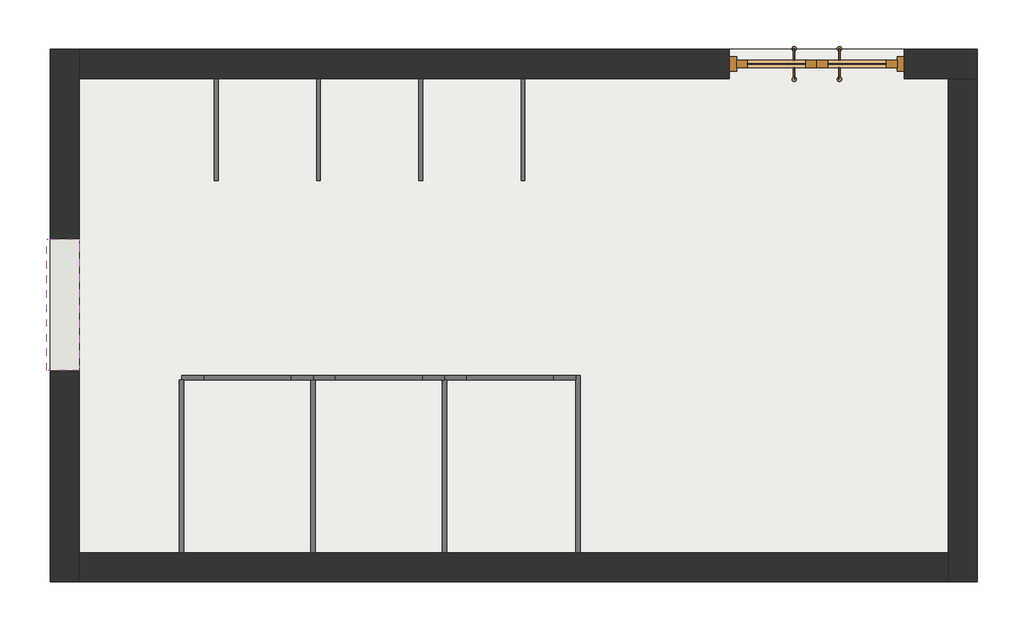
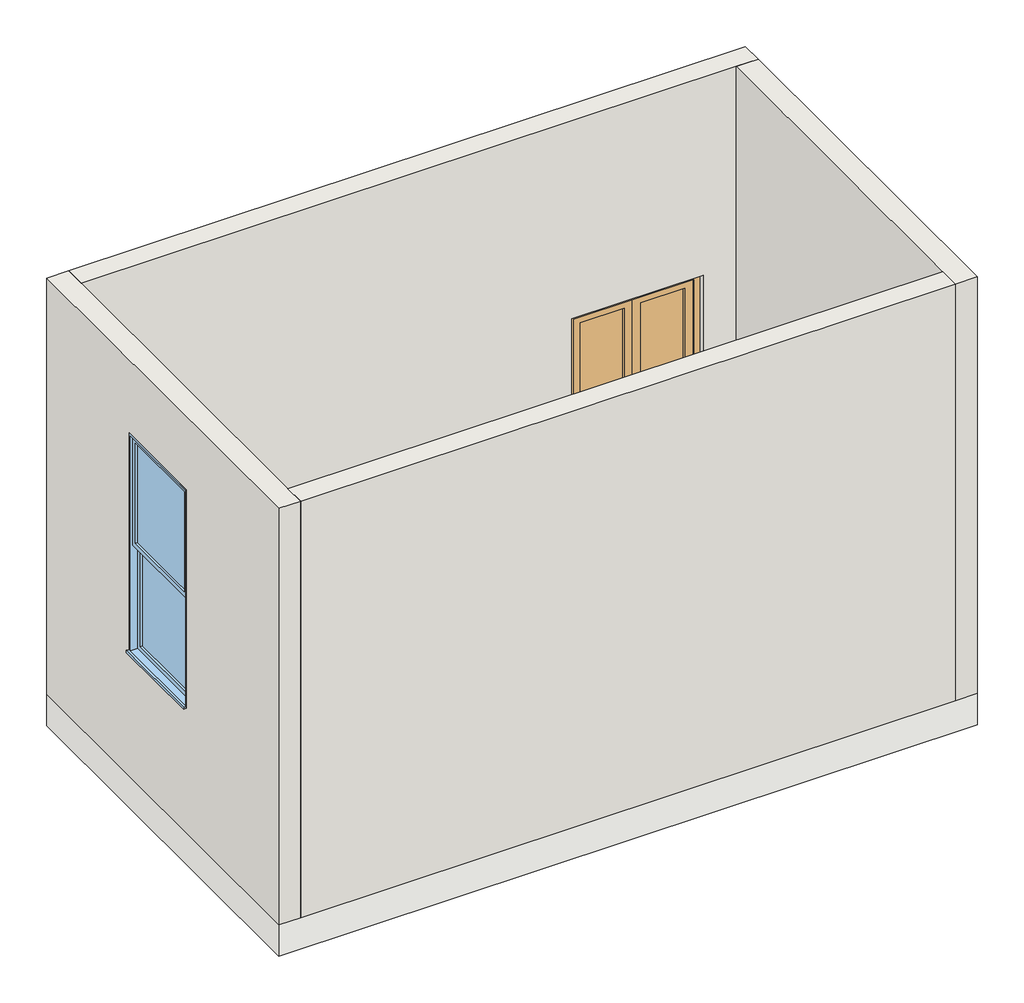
# One storey: 8 proxies, 4 walls, 1 door, 1 slab, 1 window.
"""IFC4 building model written with IfcOpenShell, lengths in millimetres."""

import ifcopenshell
import ifcopenshell.guid

model = None  # the IFC model being written
_history = None  # IfcOwnerHistory: only IFC2X3 demands one
_inside = {}  # id of a spatial element -> (the spatial element, [elements in it])
_under = {}  # id of a project, library or spatial element -> (it, [spatial elements below it])
_declared = {}  # id of a project -> (the project, [libraries it declares])
_typed = {}  # id of a type object -> (the type object, [elements of that type])
_made_of = {}  # id of a material, layer set ... -> (it, [elements and type objects made of it])


def new_model(schema):
    """Start an empty IFC model of exactly this schema.

    Asked for "IFC4X3", IfcOpenShell would pick the latest addendum, in which some entities
    have other attributes; the version numbers below select the first issue.
    IFC2X3 requires an IfcOwnerHistory on every rooted entity: one is made here for all.
    """
    global model, _history
    if schema == "IFC4X3":
        model = ifcopenshell.file(schema_version=(4, 3, 0, 0))
    else:
        model = ifcopenshell.file(schema=schema)
    _inside.clear()
    _under.clear()
    _declared.clear()
    _typed.clear()
    _made_of.clear()
    _history = None
    if model.schema == "IFC2X3":
        org = make("IfcOrganization", Name="unknown")
        user = make(
            "IfcPersonAndOrganization",
            ThePerson=make("IfcPerson", FamilyName="unknown"),
            TheOrganization=org,
        )
        app = make(
            "IfcApplication",
            ApplicationDeveloper=org,
            Version="unknown",
            ApplicationFullName="unknown",
            ApplicationIdentifier="unknown",
        )
        _history = make(
            "IfcOwnerHistory",
            OwningUser=user,
            OwningApplication=app,
            ChangeAction="ADDED",
            CreationDate=0,
        )
    return model


def make(cls, **values):
    """One entity of the class cls with the attributes given. An attribute that is None is left unset."""
    return model.create_entity(
        cls, **{name: value for name, value in values.items() if value is not None}
    )


def rooted(cls, **values):
    """An entity with a GlobalId (a new one), such as an element, a storey or a relation."""
    return make(cls, GlobalId=ifcopenshell.guid.new(), OwnerHistory=_history, **values)


def si_unit(unit_type, name, prefix=None):
    """IfcSIUnit, for example si_unit("LENGTHUNIT", "METRE", prefix="MILLI")."""
    return make("IfcSIUnit", UnitType=unit_type, Prefix=prefix, Name=name)


def assignment(units):
    """IfcUnitAssignment: the units of a project."""
    return None if units is None else make("IfcUnitAssignment", Units=units)


def point(xyz):
    """IfcCartesianPoint."""
    return None if xyz is None else make("IfcCartesianPoint", Coordinates=xyz)


def direction(xyz):
    """IfcDirection."""
    return None if xyz is None else make("IfcDirection", DirectionRatios=xyz)


def frame(location, z_axis=None, x_axis=None):
    """IfcAxis2Placement3D, a coordinate frame: its origin and axes. An axis left out is left unset."""
    return make(
        "IfcAxis2Placement3D",
        Location=point(location),
        Axis=direction(z_axis),
        RefDirection=direction(x_axis),
    )


def frame_2d(location, x_axis=None):
    """IfcAxis2Placement2D, a coordinate frame in the plane: its origin and x axis."""
    return make(
        "IfcAxis2Placement2D", Location=point(location), RefDirection=direction(x_axis)
    )


def origin():
    """The frame at (0, 0, 0) with its axes left unset."""
    return frame((0.0, 0.0, 0.0))


def origin_with_axes():
    """The frame at (0, 0, 0) with the z axis (0, 0, 1) and the x axis (1, 0, 0) written out."""
    return frame((0.0, 0.0, 0.0), z_axis=(0.0, 0.0, 1.0), x_axis=(1.0, 0.0, 0.0))


def place(relative_to, where):
    """IfcLocalPlacement: puts the frame where relative to a parent placement (None: the world)."""
    return make(
        "IfcLocalPlacement", PlacementRelTo=relative_to, RelativePlacement=where
    )


def context(
    kind, dimensions, precision=None, world=None, true_north=None, identifier=None
):
    """IfcGeometricRepresentationContext, for example the 3D "Model" context."""
    return make(
        "IfcGeometricRepresentationContext",
        ContextIdentifier=identifier,
        ContextType=kind,
        CoordinateSpaceDimension=dimensions,
        Precision=precision,
        WorldCoordinateSystem=world,
        TrueNorth=true_north,
    )


def project(units=None, contexts=None):
    """IfcProject with its units and contexts."""
    return rooted(
        "IfcProject",
        Name="project",
        RepresentationContexts=contexts,
        UnitsInContext=assignment(units),
    )


def spatial(cls, under=None, at=None, **own):
    """A site, building, storey or space (cls), placed at a placement, below another one or the project."""
    s = rooted(cls, ObjectPlacement=at, **own)
    if under is not None:
        _under.setdefault(under.id(), (under, []))[1].append(s)
    return s


def polyline(points):
    """IfcPolyline through the points."""
    return make("IfcPolyline", Points=[point(p) for p in points])


def circle_curve(where, radius):
    """IfcCircle in the frame where."""
    return make("IfcCircle", Position=where, Radius=radius)


def trimmed(basis, trim1, trim2, sense, master):
    """IfcTrimmedCurve: the piece of a basis curve between two trims."""
    return make(
        "IfcTrimmedCurve",
        BasisCurve=basis,
        Trim1=trim1,
        Trim2=trim2,
        SenseAgreement=sense,
        MasterRepresentation=master,
    )


def segment(curve, same_sense, transition):
    """IfcCompositeCurveSegment."""
    return make(
        "IfcCompositeCurveSegment",
        Transition=transition,
        SameSense=same_sense,
        ParentCurve=curve,
    )


def composite_curve(segments, self_intersect=None):
    """IfcCompositeCurve: segments joined end to end."""
    return make("IfcCompositeCurve", Segments=segments, SelfIntersect=self_intersect)


def outline(outer, holes=None, kind="AREA"):
    """IfcArbitraryClosedProfileDef: a profile drawn as a closed curve; with holes, ...WithVoids."""
    if holes is None:
        return make("IfcArbitraryClosedProfileDef", ProfileType=kind, OuterCurve=outer)
    return make(
        "IfcArbitraryProfileDefWithVoids",
        ProfileType=kind,
        OuterCurve=outer,
        InnerCurves=holes,
    )


def extrude(swept, where, along, depth):
    """IfcExtrudedAreaSolid: the profile swept, set in the frame where, extruded along a direction by depth."""
    return make(
        "IfcExtrudedAreaSolid",
        SweptArea=swept,
        Position=where,
        ExtrudedDirection=direction(along),
        Depth=depth,
    )


def faces_of(points, faces, orient=None, outer=None):
    """IfcFace entities. A face is a list of loops; a loop is a list of indices into points, from 0.

    orient and outer hold one flag for each loop. By default every Orientation is true, the
    first loop of a face is its IfcFaceOuterBound and the others are IfcFaceBound.
    """
    made = []
    for i, loops in enumerate(faces):
        bounds = []
        for j, loop in enumerate(loops):
            is_outer = j == 0 if outer is None else outer[i][j]
            bounds.append(
                make(
                    "IfcFaceOuterBound" if is_outer else "IfcFaceBound",
                    Bound=make("IfcPolyLoop", Polygon=[points[k] for k in loop]),
                    Orientation=True if orient is None else orient[i][j],
                )
            )
        made.append(make("IfcFace", Bounds=bounds))
    return made


def faceted_brep(points, faces, orient=None, outer=None, voids=None):
    """IfcFacetedBrep: a solid bounded by flat faces; with voids (closed shells), ...WithVoids."""
    shared = [point(p) for p in points]
    hull = make("IfcClosedShell", CfsFaces=faces_of(shared, faces, orient, outer))
    if voids is None:
        return make("IfcFacetedBrep", Outer=hull)
    return make(
        "IfcFacetedBrepWithVoids",
        Outer=hull,
        Voids=[
            make(cls, CfsFaces=faces_of(shared, fs, o, b)) for cls, fs, o, b in voids
        ],
    )


def shape(context_of_items, identifier, shape_type, items):
    """IfcShapeRepresentation: the items that make up one representation, for example the "Body"."""
    return make(
        "IfcShapeRepresentation",
        ContextOfItems=context_of_items,
        RepresentationIdentifier=identifier,
        RepresentationType=shape_type,
        Items=items,
    )


def source(mapping_origin, context_of_items, identifier, shape_type, items):
    """IfcRepresentationMap: a shape defined once, which mapped items show again and again."""
    return make(
        "IfcRepresentationMap",
        MappingOrigin=mapping_origin,
        MappedRepresentation=shape(context_of_items, identifier, shape_type, items),
    )


def transform(
    local_origin,
    x_axis=None,
    y_axis=None,
    z_axis=None,
    scale=None,
    scale2=None,
    scale3=None,
    uniform=True,
):
    """IfcCartesianTransformationOperator3D, or its non-uniform kind. x_axis, y_axis, z_axis: its Axis1, 2, 3."""
    if uniform:
        return make(
            "IfcCartesianTransformationOperator3D",
            Axis1=direction(x_axis),
            Axis2=direction(y_axis),
            LocalOrigin=point(local_origin),
            Scale=scale,
            Axis3=direction(z_axis),
        )
    return make(
        "IfcCartesianTransformationOperator3DnonUniform",
        Axis1=direction(x_axis),
        Axis2=direction(y_axis),
        LocalOrigin=point(local_origin),
        Scale=scale,
        Axis3=direction(z_axis),
        Scale2=scale2,
        Scale3=scale3,
    )


def mapped(mapping_source, mapping_target):
    """IfcMappedItem: shows the shape of a source again, moved by a transform."""
    return make(
        "IfcMappedItem", MappingSource=mapping_source, MappingTarget=mapping_target
    )


def made_of(thing, what):
    """Note that an element or type object is made of a material, layer set ...; save() writes the relation."""
    if what is not None:
        _made_of.setdefault(what.id(), (what, []))[1].append(thing)
    return thing


def element(
    cls,
    number,
    at=None,
    inside=None,
    cuts=None,
    type_object=None,
    material=None,
    context=None,
    identifier="Body",
    shape_type=None,
    held_by="IfcProductDefinitionShape",
    body=None,
    shapes=None,
    **own,
):
    """One element of the class cls, such as IfcWall. Its Tag is "e" and its number.

    at: its placement. inside: the storey or other place that contains it. cuts: it is an
    opening in that element (IfcRelVoidsElement). A single representation is given by context,
    identifier, shape_type and body (its items); several are given by shapes. held_by: the class
    of the entity that holds the representations. save() writes the other relations.
    """
    e = rooted(cls, Tag="e%d" % number, ObjectPlacement=at, **own)
    if body is not None:
        shapes = [shape(context, identifier, shape_type, body)]
    if shapes is not None:
        e.Representation = make(held_by, Representations=shapes)
    if inside is not None:
        _inside.setdefault(inside.id(), (inside, []))[1].append(e)
    if cuts is not None:
        rooted(
            "IfcRelVoidsElement", RelatingBuildingElement=cuts, RelatedOpeningElement=e
        )
    if type_object is not None:
        _typed.setdefault(type_object.id(), (type_object, []))[1].append(e)
    return made_of(e, material)


def aggregate(whole, parts):
    """IfcRelAggregates: a whole, such as a stair, and the parts it consists of."""
    return rooted("IfcRelAggregates", RelatingObject=whole, RelatedObjects=parts)


def save(model, path):
    """Write the relations noted so far, then the file.

    IfcRelAggregates (storeys below a building ...), IfcRelContainedInSpatialStructure (elements
    in a storey), IfcRelDefinesByType, IfcRelAssociatesMaterial and IfcRelDeclares: one each for
    every whole, place, type object, material and project.
    """
    for whole, parts in _under.values():
        aggregate(whole, parts)
    for where, things in _inside.values():
        rooted(
            "IfcRelContainedInSpatialStructure",
            RelatedElements=things,
            RelatingStructure=where,
        )
    for kind, things in _typed.values():
        rooted("IfcRelDefinesByType", RelatedObjects=things, RelatingType=kind)
    for what, things in _made_of.values():
        rooted("IfcRelAssociatesMaterial", RelatedObjects=things, RelatingMaterial=what)
    for by, libraries in _declared.values():
        rooted("IfcRelDeclares", RelatingContext=by, RelatedDefinitions=libraries)
    model.write(path)


def specialty_equipment_fa7288dd(model_context):
    return source(origin(), model_context, "Body", "SweptSolid", [
        extrude(outline(polyline([(-790.0, 1285.0), (-760.0, 1285.0), (-760.0, 100.0), (-790.0, 100.0), (-790.0, 1285.0)])), frame((0.0, 0.0, 150.0), z_axis=(0.0, 0.0, 1.0), x_axis=(1.0, 0.0, 0.0)), (0.0, 0.0, 1.0), 1650.0),
        extrude(outline(polyline([(-625.0, 1315.0), (-625.0, 1285.0), (-775.0, 1285.0), (-775.0, 1315.0), (-625.0, 1315.0)])), frame((0.0, 0.0, 150.0), z_axis=(0.0, 0.0, 1.0), x_axis=(1.0, 0.0, 0.0)), (0.0, 0.0, 1.0), 1650.0),
        extrude(outline(polyline([(-25.0, 1285.0), (-25.0, 1315.0), (125.0, 1315.0), (125.0, 1285.0), (-25.0, 1285.0)])), frame((0.0, 0.0, 150.0), z_axis=(0.0, 0.0, 1.0), x_axis=(1.0, 0.0, 0.0)), (0.0, 0.0, 1.0), 1650.0),
        extrude(outline(composite_curve([segment(trimmed(circle_curve(frame_2d((-676.8349557, 1300.0)), 10.0), [point((-686.8349557, 1300.0))], [point((-666.8349557, 1300.0))], False, "CARTESIAN"), True, "CONTINUOUS"), segment(trimmed(circle_curve(frame_2d((-676.8349557, 1300.0)), 10.0), [point((-666.8349557, 1300.0))], [point((-686.8349557, 1300.0))], False, "CARTESIAN"), True, "CONTINUOUS")], self_intersect=False)), origin_with_axes(), (0.0, 0.0, 1.0), 150.0),
        extrude(outline(composite_curve([segment(trimmed(circle_curve(frame_2d((25.0, 1300.108943)), 10.0), [point((15.0, 1300.108943))], [point((35.0, 1300.108943))], False, "CARTESIAN"), True, "CONTINUOUS"), segment(trimmed(circle_curve(frame_2d((25.0, 1300.108943)), 10.0), [point((35.0, 1300.108943))], [point((15.0, 1300.108943))], False, "CARTESIAN"), True, "CONTINUOUS")], self_intersect=False)), origin_with_axes(), (0.0, 0.0, 1.0), 150.0),
        extrude(outline(composite_curve([segment(trimmed(circle_curve(frame_2d((-775.0, 270.108943)), 10.0), [point((-785.0, 270.108943))], [point((-765.0, 270.108943))], False, "CARTESIAN"), True, "CONTINUOUS"), segment(trimmed(circle_curve(frame_2d((-775.0, 270.108943)), 10.0), [point((-765.0, 270.108943))], [point((-785.0, 270.108943))], False, "CARTESIAN"), True, "CONTINUOUS")], self_intersect=False)), origin_with_axes(), (0.0, 0.0, 1.0), 150.0),
        extrude(outline(composite_curve([segment(trimmed(circle_curve(frame_2d((-775.0, 1150.108943)), 10.0), [point((-785.0, 1150.108943))], [point((-765.0, 1150.108943))], False, "CARTESIAN"), True, "CONTINUOUS"), segment(trimmed(circle_curve(frame_2d((-775.0, 1150.108943)), 10.0), [point((-765.0, 1150.108943))], [point((-785.0, 1150.108943))], False, "CARTESIAN"), True, "CONTINUOUS")], self_intersect=False)), origin_with_axes(), (0.0, 0.0, 1.0), 150.0),
        extrude(outline(polyline([(-25.0, 1285.0), (-625.0, 1285.0), (-625.0, 1315.0), (-25.0, 1315.0), (-25.0, 1285.0)])), frame((0.0, 0.0, 150.0), z_axis=(0.0, 0.0, 1.0), x_axis=(1.0, 0.0, 0.0)), (0.0, 0.0, 1.0), 1650.0),
    ])


def specialty_equipment_3a5ac14c(model_context):
    return source(origin(), model_context, "Body", "SweptSolid", [
        extrude(outline(polyline([(-790.0, 1315.0), (-760.0, 1315.0), (-760.0, 100.0), (-790.0, 100.0), (-790.0, 1315.0)])), frame((0.0, 0.0, 150.0), z_axis=(0.0, 0.0, 1.0), x_axis=(1.0, 0.0, 0.0)), (0.0, 0.0, 1.0), 1650.0),
        extrude(outline(composite_curve([segment(trimmed(circle_curve(frame_2d((-775.0, 270.108943)), 10.0), [point((-785.0, 270.108943))], [point((-765.0, 270.108943))], False, "CARTESIAN"), True, "CONTINUOUS"), segment(trimmed(circle_curve(frame_2d((-775.0, 270.108943)), 10.0), [point((-765.0, 270.108943))], [point((-785.0, 270.108943))], False, "CARTESIAN"), True, "CONTINUOUS")], self_intersect=False)), origin_with_axes(), (0.0, 0.0, 1.0), 150.0),
        extrude(outline(composite_curve([segment(trimmed(circle_curve(frame_2d((-775.0, 1180.108943)), 10.0), [point((-785.0, 1180.108943))], [point((-765.0, 1180.108943))], False, "CARTESIAN"), True, "CONTINUOUS"), segment(trimmed(circle_curve(frame_2d((-775.0, 1180.108943)), 10.0), [point((-765.0, 1180.108943))], [point((-785.0, 1180.108943))], False, "CARTESIAN"), True, "CONTINUOUS")], self_intersect=False)), origin_with_axes(), (0.0, 0.0, 1.0), 150.0),
    ])


def proxy_20_x_300_x_1300mm_90f93d7e(model_context):
    return source(origin(), model_context, "Body", "SweptSolid", [
        extrude(outline(polyline([(137.5, 800.0), (137.5, 100.0), (112.5, 100.0), (112.5, 800.0), (137.5, 800.0)])), origin_with_axes(), (0.0, 0.0, 1.0), 1300.0),
    ])


def door_1200_x_2100mm_28484c29(model_context):
    return source(origin(), model_context, "Body", "SweptSolid", [
        extrude(outline(composite_curve([segment(trimmed(circle_curve(frame_2d((155.0, 105.0)), 15.0), [point((140.0, 105.0))], [point((170.0, 105.0))], False, "CARTESIAN"), True, "CONTINUOUS"), segment(trimmed(circle_curve(frame_2d((155.0, 105.0)), 15.0), [point((170.0, 105.0))], [point((140.0, 105.0))], False, "CARTESIAN"), True, "CONTINUOUS")], self_intersect=False)), frame((0.0, 0.0, 750.0), z_axis=(0.0, 0.0, 1.0), x_axis=(1.0, 0.0, 0.0)), (0.0, 0.0, 1.0), 500.0),
        extrude(outline(composite_curve([segment(trimmed(circle_curve(frame_2d((1200.0, 155.0)), 5.0), [point((1200.0, 150.0))], [point((1200.0, 160.0))], False, "CARTESIAN"), True, "CONTINUOUS"), segment(trimmed(circle_curve(frame_2d((1200.0, 155.0)), 5.0), [point((1200.0, 160.0))], [point((1200.0, 150.0))], False, "CARTESIAN"), True, "CONTINUOUS")], self_intersect=False)), frame((0.0, 25.0, 0.0), z_axis=(0.0, 1.0, 0.0), x_axis=(0.0, 0.0, 1.0)), (0.0, 0.0, 1.0), 80.0),
        extrude(outline(composite_curve([segment(trimmed(circle_curve(frame_2d((800.0, 155.0)), 5.0), [point((800.0, 150.0))], [point((800.0, 160.0))], False, "CARTESIAN"), True, "CONTINUOUS"), segment(trimmed(circle_curve(frame_2d((800.0, 155.0)), 5.0), [point((800.0, 160.0))], [point((800.0, 150.0))], False, "CARTESIAN"), True, "CONTINUOUS")], self_intersect=False)), frame((0.0, 25.0, 0.0), z_axis=(0.0, 1.0, 0.0), x_axis=(0.0, 0.0, 1.0)), (0.0, 0.0, 1.0), 80.0),
        extrude(outline(composite_curve([segment(trimmed(circle_curve(frame_2d((1200.0, 155.0)), 5.0), [point((1200.0, 150.0))], [point((1200.0, 160.0))], False, "CARTESIAN"), True, "CONTINUOUS"), segment(trimmed(circle_curve(frame_2d((1200.0, 155.0)), 5.0), [point((1200.0, 160.0))], [point((1200.0, 150.0))], False, "CARTESIAN"), True, "CONTINUOUS")], self_intersect=False)), frame((0.0, -105.0, 0.0), z_axis=(0.0, 1.0, 0.0), x_axis=(0.0, 0.0, 1.0)), (0.0, 0.0, 1.0), 80.0),
        extrude(outline(composite_curve([segment(trimmed(circle_curve(frame_2d((800.0, 155.0)), 5.0), [point((800.0, 150.0))], [point((800.0, 160.0))], False, "CARTESIAN"), True, "CONTINUOUS"), segment(trimmed(circle_curve(frame_2d((800.0, 155.0)), 5.0), [point((800.0, 160.0))], [point((800.0, 150.0))], False, "CARTESIAN"), True, "CONTINUOUS")], self_intersect=False)), frame((0.0, -105.0, 0.0), z_axis=(0.0, 1.0, 0.0), x_axis=(0.0, 0.0, 1.0)), (0.0, 0.0, 1.0), 80.0),
        extrude(outline(composite_curve([segment(trimmed(circle_curve(frame_2d((155.0, -105.0)), 15.0), [point((140.0, -105.0))], [point((170.0, -105.0))], False, "CARTESIAN"), True, "CONTINUOUS"), segment(trimmed(circle_curve(frame_2d((155.0, -105.0)), 15.0), [point((170.0, -105.0))], [point((140.0, -105.0))], False, "CARTESIAN"), True, "CONTINUOUS")], self_intersect=False)), frame((0.0, 0.0, 750.0), z_axis=(0.0, 0.0, 1.0), x_axis=(1.0, 0.0, 0.0)), (0.0, 0.0, 1.0), 500.0),
        extrude(outline(composite_curve([segment(trimmed(circle_curve(frame_2d((-155.0, 105.0)), 15.0), [point((-170.0, 105.0))], [point((-140.0, 105.0))], False, "CARTESIAN"), True, "CONTINUOUS"), segment(trimmed(circle_curve(frame_2d((-155.0, 105.0)), 15.0), [point((-140.0, 105.0))], [point((-170.0, 105.0))], False, "CARTESIAN"), True, "CONTINUOUS")], self_intersect=False)), frame((0.0, 0.0, 750.0), z_axis=(0.0, 0.0, 1.0), x_axis=(1.0, 0.0, 0.0)), (0.0, 0.0, 1.0), 500.0),
        extrude(outline(composite_curve([segment(trimmed(circle_curve(frame_2d((1200.0, -155.0)), 5.0), [point((1200.0, -160.0))], [point((1200.0, -150.0))], False, "CARTESIAN"), True, "CONTINUOUS"), segment(trimmed(circle_curve(frame_2d((1200.0, -155.0)), 5.0), [point((1200.0, -150.0))], [point((1200.0, -160.0))], False, "CARTESIAN"), True, "CONTINUOUS")], self_intersect=False)), frame((0.0, 25.0, 0.0), z_axis=(0.0, 1.0, 0.0), x_axis=(0.0, 0.0, 1.0)), (0.0, 0.0, 1.0), 80.0),
        extrude(outline(composite_curve([segment(trimmed(circle_curve(frame_2d((800.0, -155.0)), 5.0), [point((800.0, -160.0))], [point((800.0, -150.0))], False, "CARTESIAN"), True, "CONTINUOUS"), segment(trimmed(circle_curve(frame_2d((800.0, -155.0)), 5.0), [point((800.0, -150.0))], [point((800.0, -160.0))], False, "CARTESIAN"), True, "CONTINUOUS")], self_intersect=False)), frame((0.0, 25.0, 0.0), z_axis=(0.0, 1.0, 0.0), x_axis=(0.0, 0.0, 1.0)), (0.0, 0.0, 1.0), 80.0),
        extrude(outline(composite_curve([segment(trimmed(circle_curve(frame_2d((1200.0, -155.0)), 5.0), [point((1200.0, -160.0))], [point((1200.0, -150.0))], False, "CARTESIAN"), True, "CONTINUOUS"), segment(trimmed(circle_curve(frame_2d((1200.0, -155.0)), 5.0), [point((1200.0, -150.0))], [point((1200.0, -160.0))], False, "CARTESIAN"), True, "CONTINUOUS")], self_intersect=False)), frame((0.0, -105.0, 0.0), z_axis=(0.0, 1.0, 0.0), x_axis=(0.0, 0.0, 1.0)), (0.0, 0.0, 1.0), 80.0),
        extrude(outline(composite_curve([segment(trimmed(circle_curve(frame_2d((800.0, -155.0)), 5.0), [point((800.0, -160.0))], [point((800.0, -150.0))], False, "CARTESIAN"), True, "CONTINUOUS"), segment(trimmed(circle_curve(frame_2d((800.0, -155.0)), 5.0), [point((800.0, -150.0))], [point((800.0, -160.0))], False, "CARTESIAN"), True, "CONTINUOUS")], self_intersect=False)), frame((0.0, -105.0, 0.0), z_axis=(0.0, 1.0, 0.0), x_axis=(0.0, 0.0, 1.0)), (0.0, 0.0, 1.0), 80.0),
        extrude(outline(composite_curve([segment(trimmed(circle_curve(frame_2d((-155.0, -105.0)), 15.0), [point((-170.0, -105.0))], [point((-140.0, -105.0))], False, "CARTESIAN"), True, "CONTINUOUS"), segment(trimmed(circle_curve(frame_2d((-155.0, -105.0)), 15.0), [point((-140.0, -105.0))], [point((-170.0, -105.0))], False, "CARTESIAN"), True, "CONTINUOUS")], self_intersect=False)), frame((0.0, 0.0, 750.0), z_axis=(0.0, 0.0, 1.0), x_axis=(1.0, 0.0, 0.0)), (0.0, 0.0, 1.0), 500.0),
        extrude(outline(polyline([(75.0, 2.0), (475.0, 2.0), (475.0, -2.0), (75.0, -2.0), (75.0, 2.0)])), frame((0.0, 0.0, 75.0), z_axis=(0.0, 0.0, 1.0), x_axis=(1.0, 0.0, 0.0)), (0.0, 0.0, 1.0), 1900.0),
        extrude(outline(polyline([(-475.0, 2.0), (-75.0, 2.0), (-75.0, -2.0), (-475.0, -2.0), (-475.0, 2.0)])), frame((0.0, 0.0, 75.0), z_axis=(0.0, 0.0, 1.0), x_axis=(1.0, 0.0, 0.0)), (0.0, 0.0, 1.0), 1900.0),
        extrude(outline(polyline([(2050.0, 0.0), (2050.0, -550.0), (0.0, -550.0), (0.0, 0.0), (2050.0, 0.0)]), holes=[polyline([(1975.0, -475.0), (1975.0, -75.0), (75.0, -75.0), (75.0, -475.0), (1975.0, -475.0)])]), frame((0.0, -25.0, 0.0), z_axis=(0.0, 1.0, 0.0), x_axis=(0.0, 0.0, 1.0)), (0.0, 0.0, 1.0), 50.0),
        extrude(outline(polyline([(2050.0, 0.0), (0.0, 0.0), (0.0, 550.0), (2050.0, 550.0), (2050.0, 0.0)]), holes=[polyline([(1975.0, 475.0), (75.0, 475.0), (75.0, 75.0), (1975.0, 75.0), (1975.0, 475.0)])]), frame((0.0, -25.0, 0.0), z_axis=(0.0, 1.0, 0.0), x_axis=(0.0, 0.0, 1.0)), (0.0, 0.0, 1.0), 50.0),
        extrude(outline(polyline([(2100.0, 600.0), (2100.0, -600.0), (0.0, -600.0), (0.0, -550.0), (2050.0, -550.0), (2050.0, 550.0), (0.0, 550.0), (0.0, 600.0), (2100.0, 600.0)])), frame((0.0, -50.0, 0.0), z_axis=(0.0, 1.0, 0.0), x_axis=(0.0, 0.0, 1.0)), (0.0, 0.0, 1.0), 100.0),
    ])


def window_900_x_2100mm_6ae3658a(model_context):
    return source(origin(), model_context, "Body", "SweptSolid", [
        extrude(outline(polyline([(-385.0, 62.2615397), (385.0, 62.2615397), (385.0, 52.2615397), (-385.0, 52.2615397), (-385.0, 62.2615397)])), frame((0.0, 0.0, 1372.5), z_axis=(0.0, 0.0, 1.0), x_axis=(1.0, 0.0, 0.0)), (0.0, 0.0, 1.0), 962.5),
        extrude(outline(polyline([(-385.0, 17.2615397), (385.0, 17.2615397), (385.0, 7.2615397), (-385.0, 7.2615397), (-385.0, 17.2615397)])), frame((0.0, 0.0, 365.0), z_axis=(0.0, 0.0, 1.0), x_axis=(1.0, 0.0, 0.0)), (0.0, 0.0, 1.0), 962.5),
        extrude(outline(polyline([(1372.5, -430.0), (320.0, -430.0), (320.0, 430.0), (1372.5, 430.0), (1372.5, -430.0)]), holes=[polyline([(1327.5, -385.0), (1327.5, 385.0), (365.0, 385.0), (365.0, -385.0), (1327.5, -385.0)])]), frame((0.0, -10.2384603, 0.0), z_axis=(0.0, 1.0, 0.0), x_axis=(0.0, 0.0, 1.0)), (0.0, 0.0, 1.0), 45.0),
        extrude(outline(polyline([(2380.0, -430.0), (1327.5, -430.0), (1327.5, 430.0), (2380.0, 430.0), (2380.0, -430.0)]), holes=[polyline([(2335.0, -385.0), (2335.0, 385.0), (1372.5, 385.0), (1372.5, -385.0), (2335.0, -385.0)])]), frame((0.0, 34.7615397, 0.0), z_axis=(0.0, 1.0, 0.0), x_axis=(0.0, 0.0, 1.0)), (0.0, 0.0, 1.0), 45.0),
        extrude(outline(polyline([(2400.0, -450.0), (300.0, -450.0), (300.0, 450.0), (2400.0, 450.0), (2400.0, -450.0)]), holes=[polyline([(2368.0, -418.0), (2368.0, 418.0), (332.0, 418.0), (332.0, -418.0), (2368.0, -418.0)])]), frame((0.0, -100.2384603, 0.0), z_axis=(0.0, 1.0, 0.0), x_axis=(0.0, 0.0, 1.0)), (0.0, 0.0, 1.0), 90.0),
        extrude(outline(polyline([(2400.0, 450.0), (2400.0, -450.0), (300.0, -450.0), (300.0, 450.0), (2400.0, 450.0)]), holes=[polyline([(2380.0, 430.0), (320.0, 430.0), (320.0, -430.0), (2380.0, -430.0), (2380.0, 430.0)])]), frame((0.0, -10.2384603, 0.0), z_axis=(0.0, 1.0, 0.0), x_axis=(0.0, 0.0, 1.0)), (0.0, 0.0, 1.0), 110.0),
        extrude(outline(polyline([(-450.0, 124.7615397), (450.0, 124.7615397), (450.0, 99.7615397), (-450.0, 99.7615397), (-450.0, 124.7615397)])), frame((0.0, 0.0, 300.0), z_axis=(0.0, 0.0, 1.0), x_axis=(1.0, 0.0, 0.0)), (0.0, 0.0, 1.0), 20.0),
    ])


model = new_model("IFC4")

# Units and contexts
model_context = context("Model", 3, world=origin())
ifc_project = project(units=[si_unit("LENGTHUNIT", "METRE", prefix="MILLI")], contexts=[model_context])

# Site, building, storey
site = spatial("IfcSite", under=ifc_project)
building = spatial("IfcBuilding", under=site)
storey = spatial("IfcBuildingStorey", under=building, Name="标高 1", Elevation=0.0)

# Proxies
placement = place(None, origin())
specialty_equipment_shape = specialty_equipment_fa7288dd(model_context)
element("IfcBuildingElementProxy", 1, Name="厕所隔断 1 3D : 中间或靠墙(落地)", ObjectType="厕所隔断 1 3D : 中间或靠墙(落地)", at=placement, inside=storey, context=model_context, shape_type="MappedRepresentation", body=[
    mapped(specialty_equipment_shape, transform((-14222.099061, -8689.1483569, 0.0), x_axis=(1.0, 0.0, 0.0), y_axis=(0.0, 1.0, 0.0), z_axis=(0.0, 0.0, 1.0))),
])
element("IfcBuildingElementProxy", 2, Name="厕所隔断 1 3D : 中间或靠墙(落地)", ObjectType="厕所隔断 1 3D : 中间或靠墙(落地)", at=placement, inside=storey, context=model_context, shape_type="MappedRepresentation", body=[
    mapped(specialty_equipment_shape, transform((-13322.099061, -8689.1483569, 0.0), x_axis=(1.0, 0.0, 0.0), y_axis=(0.0, 1.0, 0.0), z_axis=(0.0, 0.0, 1.0))),
])
element("IfcBuildingElementProxy", 3, Name="厕所隔断 1 3D : 中间或靠墙(落地)", ObjectType="厕所隔断 1 3D : 中间或靠墙(落地)", at=placement, inside=storey, context=model_context, shape_type="MappedRepresentation", body=[
    mapped(specialty_equipment_shape, transform((-12422.099061, -8689.1483569, 0.0), x_axis=(1.0, 0.0, 0.0), y_axis=(0.0, 1.0, 0.0), z_axis=(0.0, 0.0, 1.0))),
])
specialty_equipment_2_shape = specialty_equipment_3a5ac14c(model_context)
element("IfcBuildingElementProxy", 4, Name="厕所隔断 4 3D : 末端(落地)", ObjectType="厕所隔断 4 3D : 末端(落地)", at=placement, inside=storey, context=model_context, shape_type="MappedRepresentation", body=[
    mapped(specialty_equipment_2_shape, transform((-11507.099061, -8689.1483569, 0.0), x_axis=(1.0, 0.0, 0.0), y_axis=(0.0, 1.0, 0.0), z_axis=(0.0, 0.0, 1.0))),
])
proxy_20_x_300_x_1300mm_shape = proxy_20_x_300_x_1300mm_90f93d7e(model_context)
element("IfcBuildingElementProxy", 5, Name="盥洗室隔断 3 3D : 20 x 300 x 1300mm", ObjectType="盥洗室隔断 3 3D : 20 x 300 x 1300mm", at=placement, inside=storey, context=model_context, shape_type="MappedRepresentation", body=[
    mapped(proxy_20_x_300_x_1300mm_shape, transform((-14634.599061, -5239.1483569, 0.0), x_axis=(-1.0, 0.0, 0.0), y_axis=(0.0, -1.0, 0.0), z_axis=(0.0, 0.0, 1.0))),
])
element("IfcBuildingElementProxy", 6, Name="盥洗室隔断 3 3D : 20 x 300 x 1300mm", ObjectType="盥洗室隔断 3 3D : 20 x 300 x 1300mm", at=placement, inside=storey, context=model_context, shape_type="MappedRepresentation", body=[
    mapped(proxy_20_x_300_x_1300mm_shape, transform((-13934.599061, -5239.1483569, 0.0), x_axis=(-1.0, 0.0, 0.0), y_axis=(0.0, -1.0, 0.0), z_axis=(0.0, 0.0, 1.0))),
])
element("IfcBuildingElementProxy", 7, Name="盥洗室隔断 3 3D : 20 x 300 x 1300mm", ObjectType="盥洗室隔断 3 3D : 20 x 300 x 1300mm", at=placement, inside=storey, context=model_context, shape_type="MappedRepresentation", body=[
    mapped(proxy_20_x_300_x_1300mm_shape, transform((-13234.599061, -5239.1483569, 0.0), x_axis=(-1.0, 0.0, 0.0), y_axis=(0.0, -1.0, 0.0), z_axis=(0.0, 0.0, 1.0))),
])
element("IfcBuildingElementProxy", 8, Name="盥洗室隔断 3 3D : 20 x 300 x 1300mm", ObjectType="盥洗室隔断 3 3D : 20 x 300 x 1300mm", at=placement, inside=storey, context=model_context, shape_type="MappedRepresentation", body=[
    mapped(proxy_20_x_300_x_1300mm_shape, transform((-12534.599061, -5239.1483569, 0.0), x_axis=(-1.0, 0.0, 0.0), y_axis=(0.0, -1.0, 0.0), z_axis=(0.0, 0.0, 1.0))),
])

# Door
door_1200_x_2100mm_shape = door_1200_x_2100mm_28484c29(model_context)
element("IfcDoor", 9, ObjectType="双面嵌板玻璃门 : 1200 x 2100mm", at=placement, inside=storey, context=model_context, shape_type="MappedRepresentation", body=[
    mapped(door_1200_x_2100mm_shape, transform((-10647.099061, -5239.1483569, 0.0), x_axis=(-1.0, 0.0, 0.0), y_axis=(0.0, -1.0, 0.0), z_axis=(0.0, 0.0, 1.0))),
])

# Slab
element("IfcSlab", 10, ObjectType="常规 - 300mm", at=placement, inside=storey, context=model_context, shape_type="SweptSolid", body=[
    extrude(outline(polyline([(-15897.099061, -5139.1483569), (-9547.099061, -5139.1483569), (-9547.099061, -8789.1483569), (-15897.099061, -8789.1483569), (-15897.099061, -5139.1483569)])), frame((0.0, 0.0, -300.0), z_axis=(0.0, 0.0, 1.0), x_axis=(1.0, 0.0, 0.0)), (0.0, 0.0, 1.0), 300.0),
])

# Walls
element("IfcWall", 11, ObjectType="常规 - 200mm", at=placement, inside=storey, context=model_context, shape_type="Brep", body=[
    faceted_brep([(-15697.099061, -8789.1483569, 0.0), (-15697.099061, -8589.1483569, 0.0), (-15697.099061, -5339.1483569, 0.0), (-15697.099061, -5139.1483569, 0.0), (-15697.099061, -5139.1483569, 4000.0), (-15697.099061, -5339.1483569, 4000.0), (-15697.099061, -8589.1483569, 4000.0), (-15697.099061, -8789.1483569, 4000.0), (-15697.099061, -6439.1483569, 3300.0), (-15697.099061, -6439.1483569, 1200.0), (-15697.099061, -7339.1483569, 1200.0), (-15697.099061, -7339.1483569, 3300.0), (-15897.099061, -8789.1483569, 0.0), (-15897.099061, -8789.1483569, 4000.0), (-15897.099061, -5139.1483569, 4000.0), (-15897.099061, -5139.1483569, 0.0), (-15897.099061, -6439.1483569, 3300.0), (-15897.099061, -7339.1483569, 3300.0), (-15897.099061, -7339.1483569, 1200.0), (-15897.099061, -6439.1483569, 1200.0)], [[[0, 1, 2, 3, 4, 5, 6, 7], [8, 9, 10, 11]], [[12, 13, 14, 15], [16, 17, 18, 19]], [[3, 2, 1, 0, 12, 15]], [[7, 6, 5, 4, 14, 13]], [[4, 3, 15, 14]], [[0, 7, 13, 12]], [[9, 8, 16, 19]], [[10, 9, 19, 18]], [[11, 10, 18, 17]], [[8, 11, 17, 16]]]),
])
element("IfcWall", 12, ObjectType="常规 - 200mm", at=placement, inside=storey, context=model_context, shape_type="Brep", body=[
    faceted_brep([(-9547.099061, -5339.1483569, 4000.0), (-9747.099061, -5339.1483569, 4000.0), (-15697.099061, -5339.1483569, 4000.0), (-15697.099061, -5339.1483569, 0.0), (-11247.099061, -5339.1483569, 0.0), (-11247.099061, -5339.1483569, 2100.0), (-10047.099061, -5339.1483569, 2100.0), (-10047.099061, -5339.1483569, 0.0), (-9747.099061, -5339.1483569, 0.0), (-9547.099061, -5339.1483569, 0.0), (-15697.099061, -5139.1483569, 4000.0), (-9547.099061, -5139.1483569, 4000.0), (-9547.099061, -5139.1483569, 0.0), (-10047.099061, -5139.1483569, 0.0), (-10047.099061, -5139.1483569, 2100.0), (-11247.099061, -5139.1483569, 2100.0), (-11247.099061, -5139.1483569, 0.0), (-15697.099061, -5139.1483569, 0.0)], [[[0, 1, 2, 3, 4, 5, 6, 7, 8, 9]], [[10, 11, 12, 13, 14, 15, 16, 17]], [[3, 17, 16, 4]], [[12, 9, 8, 7, 13]], [[2, 1, 0, 11, 10]], [[3, 2, 10, 17]], [[0, 9, 12, 11]], [[15, 5, 4, 16]], [[5, 15, 14, 6]], [[6, 14, 13, 7]]]),
])
element("IfcWall", 13, ObjectType="常规 - 200mm", at=placement, inside=storey, context=model_context, shape_type="Brep", body=[
    faceted_brep([(-9747.099061, -5339.1483569, 0.0), (-9747.099061, -8589.1483569, 0.0), (-9747.099061, -8789.1483569, 0.0), (-9747.099061, -8789.1483569, 4000.0), (-9747.099061, -8589.1483569, 4000.0), (-9747.099061, -5339.1483569, 4000.0), (-9547.099061, -5339.1483569, 0.0), (-9547.099061, -5339.1483569, 4000.0), (-9547.099061, -8789.1483569, 4000.0), (-9547.099061, -8789.1483569, 0.0)], [[[0, 1, 2, 3, 4, 5]], [[6, 7, 8, 9]], [[2, 1, 0, 6, 9]], [[5, 4, 3, 8, 7]], [[0, 5, 7, 6]], [[3, 2, 9, 8]]]),
])
element("IfcWall", 14, ObjectType="常规 - 200mm", at=placement, inside=storey, context=model_context, shape_type="SweptSolid", body=[
    extrude(outline(polyline([(-15697.099061, -8589.1483569), (-9747.099061, -8589.1483569), (-9747.099061, -8789.1483569), (-15697.099061, -8789.1483569), (-15697.099061, -8589.1483569)])), origin_with_axes(), (0.0, 0.0, 1.0), 4000.0),
])

# Window
window_900_x_2100mm_shape = window_900_x_2100mm_6ae3658a(model_context)
element("IfcWindow", 15, ObjectType="上下拉窗1 : 900 x 2100mm", at=placement, inside=storey, context=model_context, shape_type="MappedRepresentation", body=[
    mapped(window_900_x_2100mm_shape, transform((-15797.3375213, -6889.1483569, 900.0), x_axis=(0.0, 1.0, 0.0), y_axis=(-1.0, 0.0, 0.0), z_axis=(0.0, 0.0, 1.0))),
])

save(model, "model.ifc")
